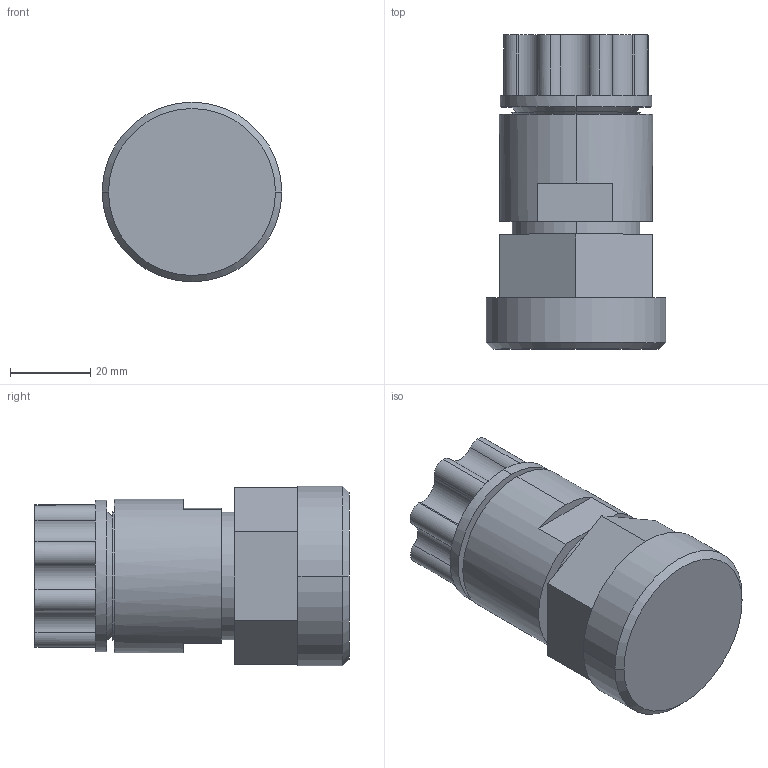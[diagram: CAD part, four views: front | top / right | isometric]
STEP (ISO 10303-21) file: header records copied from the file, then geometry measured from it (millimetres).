
FILE_DESCRIPTION (( 'STEP AP214' ), '1' );
FILE_NAME ('12-synchro-flare-with-top-mount-adapter.STEP', '2012-11-27T20:42:04', ( '' ), ( '' ), 'SwSTEP 2.0', 'SolidWorks 2012', '' );
FILE_SCHEMA (( 'AUTOMOTIVE_DESIGN' ));
Length unit declared in the file: inch
Products named in the file (1): 12-synchro-flare-with-top-mount-adapter
Bounding box: 44.7 x 78.1 x 44.7 mm (x, y, z)
Volume: 109492 mm3; surface area: 25278 mm2
Topology: 3 solids, 3 shells, 142 faces, 309 edges, 192 vertices
Faces by surface type: cone 60, plane 43, cylinder 39
Entity records: 4035 total; most frequent: DIRECTION 779, CARTESIAN_POINT 644, ORIENTED_EDGE 618, AXIS2_PLACEMENT_3D 327, EDGE_CURVE 309, VERTEX_POINT 192, CIRCLE 184, EDGE_LOOP 161
